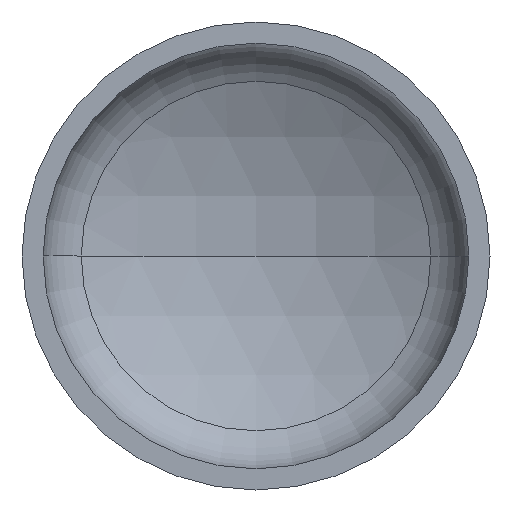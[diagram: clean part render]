
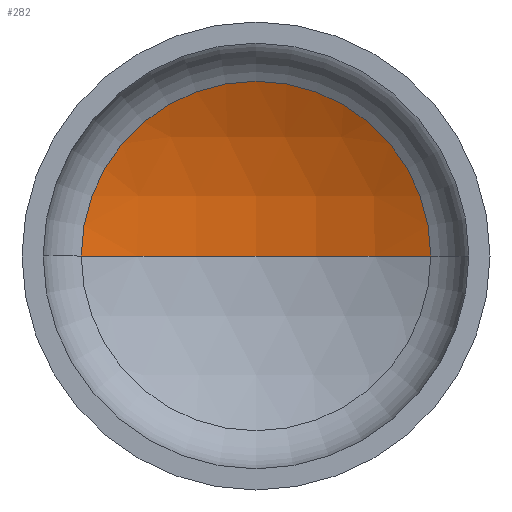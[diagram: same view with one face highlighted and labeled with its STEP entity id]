
A CAD part, front view. The second image highlights one B-rep face of the part: STEP entity #282.
In plain terms, the highlighted spherical face has radius 1520 mm.
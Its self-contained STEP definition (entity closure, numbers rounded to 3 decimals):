
#9 = AXIS2_PLACEMENT_3D ( 'NONE', #222, #386, #169 ) ;
#17 = AXIS2_PLACEMENT_3D ( 'NONE', #154, #320, #60 ) ;
#21 = EDGE_LOOP ( 'NONE', ( #90, #40, #160 ) ) ;
#40 = ORIENTED_EDGE ( 'NONE', *, *, #390, .T. ) ;
#51 = VERTEX_POINT ( 'NONE', #378 ) ;
#60 = DIRECTION ( 'NONE',  ( 1., 0., 0. ) ) ;
#76 = AXIS2_PLACEMENT_3D ( 'NONE', #268, #226, #285 ) ;
#90 = ORIENTED_EDGE ( 'NONE', *, *, #375, .F. ) ;
#101 = CARTESIAN_POINT ( 'NONE',  ( 0., 356.486, 0. ) ) ;
#116 = VERTEX_POINT ( 'NONE', #335 ) ;
#141 = AXIS2_PLACEMENT_3D ( 'NONE', #101, #362, #221 ) ;
#154 = CARTESIAN_POINT ( 'NONE',  ( 0., -987.853, 0. ) ) ;
#160 = ORIENTED_EDGE ( 'NONE', *, *, #393, .T. ) ;
#163 = CARTESIAN_POINT ( 'NONE',  ( -709.333, 356.486, 0. ) ) ;
#169 = DIRECTION ( 'NONE',  ( -1., 0., 0. ) ) ;
#195 = FACE_OUTER_BOUND ( 'NONE', #21, .T. ) ;
#200 = SPHERICAL_SURFACE ( 'NONE', #76, 1520. ) ;
#221 = DIRECTION ( 'NONE',  ( 1., 0., 0. ) ) ;
#222 = CARTESIAN_POINT ( 'NONE',  ( 0., -987.853, 0. ) ) ;
#226 = DIRECTION ( 'NONE',  ( 0., 0., -1. ) ) ;
#228 = CIRCLE ( 'NONE', #9, 1520. ) ;
#237 = CIRCLE ( 'NONE', #17, 1520. ) ;
#268 = CARTESIAN_POINT ( 'NONE',  ( 0., -987.853, 0. ) ) ;
#282 = ADVANCED_FACE ( 'NONE', ( #195 ), #200, .F. ) ;
#285 = DIRECTION ( 'NONE',  ( -1., 0., 0. ) ) ;
#320 = DIRECTION ( 'NONE',  ( 0., 0., 1. ) ) ;
#335 = CARTESIAN_POINT ( 'NONE',  ( 709.333, 356.486, 0. ) ) ;
#349 = CIRCLE ( 'NONE', #141, 709.333 ) ;
#362 = DIRECTION ( 'NONE',  ( 0., -1., 0. ) ) ;
#364 = VERTEX_POINT ( 'NONE', #163 ) ;
#375 = EDGE_CURVE ( 'NONE', #51, #364, #237, .T. ) ;
#378 = CARTESIAN_POINT ( 'NONE',  ( 0., 532.147, 0. ) ) ;
#386 = DIRECTION ( 'NONE',  ( 0., 0., -1. ) ) ;
#390 = EDGE_CURVE ( 'NONE', #51, #116, #228, .T. ) ;
#393 = EDGE_CURVE ( 'NONE', #116, #364, #349, .T. ) ;
